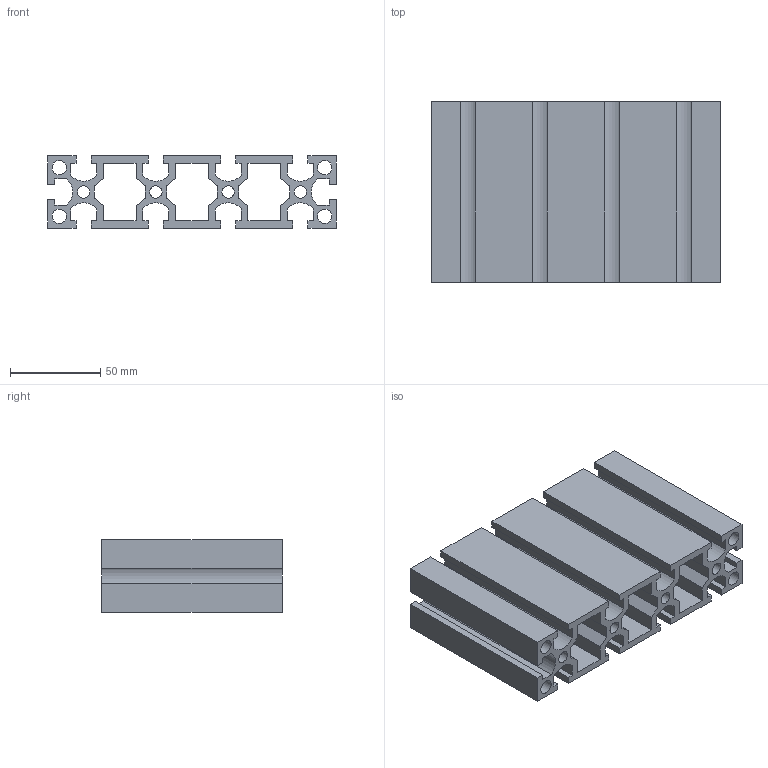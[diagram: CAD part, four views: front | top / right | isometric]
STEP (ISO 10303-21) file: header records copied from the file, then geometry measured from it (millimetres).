
FILE_DESCRIPTION(/* description */ ('Unknown'),/* implementation_level */ '2;1');
FILE_NAME(/* name */ 'NM40160',/* time_stamp */ '2026-08-31T11:40:11+08:00',/* author */ ('Unknown'),/* organization */ ('Unknown'),/* preprocessor_version */ 'ST-DEVELOPER v16.7',/* originating_system */ 'DEX',/* authorisation */ $);
FILE_SCHEMA (('AUTOMOTIVE_DESIGN {1 0 10303 214 3 1 1}'));
Length unit declared in the file: millimetre
Products named in the file (1): 40160-
Bounding box: 160 x 100 x 40 mm (x, y, z)
Volume: 235869 mm3; surface area: 131587 mm2
Topology: 1 solids, 1 shells, 130 faces, 384 edges, 256 vertices
Faces by surface type: plane 112, cylinder 18
Full cylindrical faces by diameter (mm): 6.8 x4, 8 x4
Entity records: 4318 total; most frequent: CARTESIAN_POINT 763, ORIENTED_EDGE 752, DIRECTION 674, EDGE_CURVE 376, LINE 340, VECTOR 340, VERTEX_POINT 256, AXIS2_PLACEMENT_3D 167
